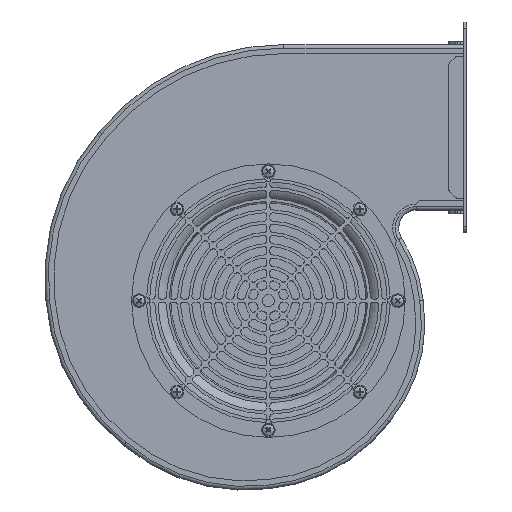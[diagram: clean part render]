
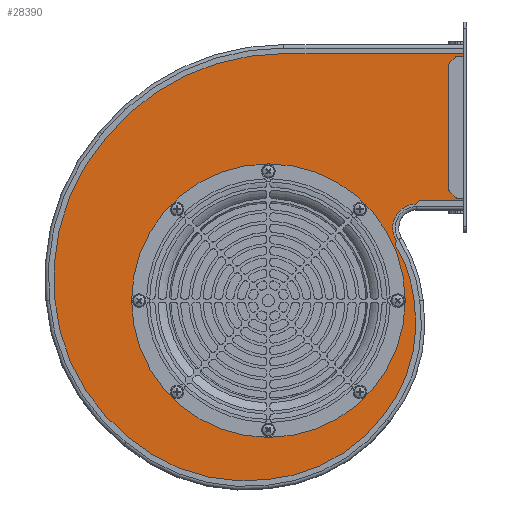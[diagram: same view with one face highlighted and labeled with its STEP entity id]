
A CAD part, top view. The second image highlights one B-rep face of the part: STEP entity #28390.
In plain terms, the highlighted planar face has unit normal (0, 0, 1).
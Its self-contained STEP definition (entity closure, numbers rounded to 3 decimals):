
#432=CIRCLE('',#28610,130.);
#434=CIRCLE('',#28613,142.);
#436=CIRCLE('',#28616,153.);
#511=CIRCLE('',#28754,16.);
#512=CIRCLE('',#28756,92.);
#513=CIRCLE('',#28758,97.);
#514=CIRCLE('',#28760,108.);
#515=CIRCLE('',#28762,119.);
#1736=CIRCLE('',#31008,91.);
#1989=FACE_BOUND('',#5891,.T.);
#2730=PLANE('',#31009);
#4184=FACE_OUTER_BOUND('',#5890,.T.);
#5890=EDGE_LOOP('',(#25340,#25341,#25342,#25343,#25344,#25345,#25346,#25347,
#25348,#25349,#25350,#25351,#25352,#25353));
#5891=EDGE_LOOP('',(#25354));
#7134=LINE('',#50177,#8965);
#7157=LINE('',#50239,#8988);
#7168=LINE('',#50269,#8999);
#7171=LINE('',#50275,#9002);
#7204=LINE('',#50382,#9035);
#7208=LINE('',#50390,#9039);
#8965=VECTOR('',#31970,10.);
#8988=VECTOR('',#32011,10.);
#8999=VECTOR('',#32032,10.);
#9002=VECTOR('',#32037,10.);
#9035=VECTOR('',#32152,10.);
#9039=VECTOR('',#32158,10.);
#11137=VERTEX_POINT('',#50155);
#11138=VERTEX_POINT('',#50156);
#11141=VERTEX_POINT('',#50164);
#11143=VERTEX_POINT('',#50170);
#11145=VERTEX_POINT('',#50176);
#11175=VERTEX_POINT('',#50238);
#11189=VERTEX_POINT('',#50268);
#11191=VERTEX_POINT('',#50274);
#11223=VERTEX_POINT('',#50380);
#11224=VERTEX_POINT('',#50381);
#11227=VERTEX_POINT('',#50389);
#11268=VERTEX_POINT('',#50521);
#11269=VERTEX_POINT('',#50525);
#11270=VERTEX_POINT('',#50529);
#13003=VERTEX_POINT('',#56352);
#14319=EDGE_CURVE('',#11137,#11138,#432,.T.);
#14323=EDGE_CURVE('',#11141,#11137,#434,.T.);
#14326=EDGE_CURVE('',#11143,#11141,#436,.T.);
#14329=EDGE_CURVE('',#11145,#11143,#7134,.T.);
#14360=EDGE_CURVE('',#11145,#11175,#7157,.T.);
#14375=EDGE_CURVE('',#11189,#11175,#7168,.T.);
#14378=EDGE_CURVE('',#11191,#11189,#7171,.T.);
#14429=EDGE_CURVE('',#11223,#11224,#7204,.T.);
#14433=EDGE_CURVE('',#11224,#11227,#7208,.T.);
#14499=EDGE_CURVE('',#11227,#11191,#511,.T.);
#14500=EDGE_CURVE('',#11268,#11223,#512,.T.);
#14502=EDGE_CURVE('',#11269,#11268,#513,.T.);
#14504=EDGE_CURVE('',#11270,#11269,#514,.T.);
#14506=EDGE_CURVE('',#11138,#11270,#515,.T.);
#17120=EDGE_CURVE('',#13003,#13003,#1736,.T.);
#25340=ORIENTED_EDGE('',*,*,#14329,.T.);
#25341=ORIENTED_EDGE('',*,*,#14326,.T.);
#25342=ORIENTED_EDGE('',*,*,#14323,.T.);
#25343=ORIENTED_EDGE('',*,*,#14319,.T.);
#25344=ORIENTED_EDGE('',*,*,#14506,.T.);
#25345=ORIENTED_EDGE('',*,*,#14504,.T.);
#25346=ORIENTED_EDGE('',*,*,#14502,.T.);
#25347=ORIENTED_EDGE('',*,*,#14500,.T.);
#25348=ORIENTED_EDGE('',*,*,#14429,.T.);
#25349=ORIENTED_EDGE('',*,*,#14433,.T.);
#25350=ORIENTED_EDGE('',*,*,#14499,.T.);
#25351=ORIENTED_EDGE('',*,*,#14378,.T.);
#25352=ORIENTED_EDGE('',*,*,#14375,.T.);
#25353=ORIENTED_EDGE('',*,*,#14360,.F.);
#25354=ORIENTED_EDGE('',*,*,#17120,.T.);
#28390=ADVANCED_FACE('',(#4184,#1989),#2730,.T.);
#28610=AXIS2_PLACEMENT_3D('',#50157,#31948,#31949);
#28613=AXIS2_PLACEMENT_3D('',#50165,#31956,#31957);
#28616=AXIS2_PLACEMENT_3D('',#50171,#31963,#31964);
#28754=AXIS2_PLACEMENT_3D('',#50519,#32325,#32326);
#28756=AXIS2_PLACEMENT_3D('',#50522,#32329,#32330);
#28758=AXIS2_PLACEMENT_3D('',#50526,#32334,#32335);
#28760=AXIS2_PLACEMENT_3D('',#50530,#32339,#32340);
#28762=AXIS2_PLACEMENT_3D('',#50533,#32344,#32345);
#31008=AXIS2_PLACEMENT_3D('',#56353,#38037,#38038);
#31009=AXIS2_PLACEMENT_3D('',#56354,#38039,#38040);
#31948=DIRECTION('center_axis',(0.,0.,1.));
#31949=DIRECTION('ref_axis',(-0.997,-0.08,0.));
#31956=DIRECTION('center_axis',(0.,0.,1.));
#31957=DIRECTION('ref_axis',(-0.754,0.657,0.));
#31963=DIRECTION('center_axis',(0.,0.,1.));
#31964=DIRECTION('ref_axis',(0.,1.,0.));
#31970=DIRECTION('',(-1.,0.,0.));
#32011=DIRECTION('',(0.,-1.,0.));
#32032=DIRECTION('',(1.,0.,0.));
#32037=DIRECTION('',(0.707,0.707,0.));
#32152=DIRECTION('',(0.255,0.967,0.));
#32158=DIRECTION('',(0.875,0.483,0.));
#32325=DIRECTION('center_axis',(0.,0.,-1.));
#32326=DIRECTION('ref_axis',(0.,-1.,0.));
#32329=DIRECTION('center_axis',(0.,0.,1.));
#32330=DIRECTION('ref_axis',(0.995,0.103,0.));
#32334=DIRECTION('center_axis',(0.,0.,1.));
#32335=DIRECTION('ref_axis',(0.771,-0.637,0.));
#32339=DIRECTION('center_axis',(0.,0.,1.));
#32340=DIRECTION('ref_axis',(0.087,-0.996,0.));
#32344=DIRECTION('center_axis',(0.,0.,1.));
#32345=DIRECTION('ref_axis',(-0.648,-0.761,0.));
#38037=DIRECTION('center_axis',(0.,0.,-1.));
#38038=DIRECTION('ref_axis',(-1.,0.,0.));
#38039=DIRECTION('center_axis',(0.,0.,1.));
#38040=DIRECTION('ref_axis',(1.,0.,0.));
#50155=CARTESIAN_POINT('',(-142.025,0.552,2.));
#50156=CARTESIAN_POINT('',(-92.375,-91.515,2.));
#50157=CARTESIAN_POINT('Origin',(-12.446,11.011,2.));
#50164=CARTESIAN_POINT('',(-107.851,108.552,2.));
#50165=CARTESIAN_POINT('Origin',(-0.79,15.268,2.));
#50170=CARTESIAN_POINT('',(10.291,164.333,2.));
#50171=CARTESIAN_POINT('Origin',(10.291,11.333,2.));
#50176=CARTESIAN_POINT('',(130.,164.333,2.));
#50177=CARTESIAN_POINT('',(5.892,164.333,2.));
#50238=CARTESIAN_POINT('',(130.,66.333,2.));
#50239=CARTESIAN_POINT('',(130.,60.333,2.));
#50268=CARTESIAN_POINT('',(100.646,66.333,2.));
#50269=CARTESIAN_POINT('',(65.746,66.333,2.));
#50274=CARTESIAN_POINT('',(98.646,64.333,2.));
#50275=CARTESIAN_POINT('',(67.291,32.978,2.));
#50380=CARTESIAN_POINT('',(84.442,37.069,2.));
#50381=CARTESIAN_POINT('',(85.146,39.74,2.));
#50382=CARTESIAN_POINT('',(81.554,26.113,2.));
#50389=CARTESIAN_POINT('',(85.149,39.741,2.));
#50390=CARTESIAN_POINT('',(51.898,21.375,2.));
#50519=CARTESIAN_POINT('Origin',(98.646,48.333,2.));
#50521=CARTESIAN_POINT('',(97.046,-0.754,2.));
#50522=CARTESIAN_POINT('Origin',(5.536,-10.237,2.));
#50525=CARTESIAN_POINT('',(75.909,-76.881,2.));
#50526=CARTESIAN_POINT('Origin',(1.115,-15.116,2.));
#50529=CARTESIAN_POINT('',(-0.628,-119.032,2.));
#50530=CARTESIAN_POINT('Origin',(-10.007,-11.44,2.));
#50533=CARTESIAN_POINT('Origin',(-15.206,-0.928,2.));
#56352=CARTESIAN_POINT('',(-91.,0.,2.));
#56353=CARTESIAN_POINT('Origin',(0.,0.,2.));
#56354=CARTESIAN_POINT('Origin',(1.492,34.068,2.));
